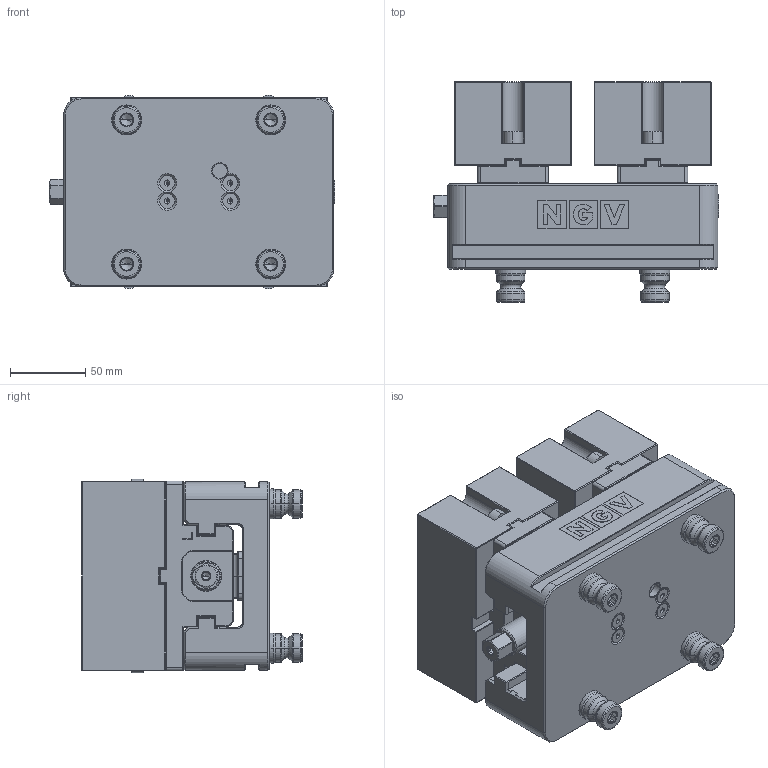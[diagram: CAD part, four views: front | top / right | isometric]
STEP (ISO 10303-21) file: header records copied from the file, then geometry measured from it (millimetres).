
FILE_DESCRIPTION((''),'2;1');
FILE_NAME('SJV126S_00_0_ASM','2025-06-26T',('tibi'),(''),'PRO/ENGINEER BY PARAMETRIC TECHNOLOGY CORPORATION, 2010280','PRO/ENGINEER BY PARAMETRIC TECHNOLOGY CORPORATION, 2010280','');
FILE_SCHEMA(('CONFIG_CONTROL_DESIGN'));
Length unit declared in the file: millimetre
Products named in the file (12): CORP; SEMICUPLA; SURUB; INEL_O_15X1SI8_INST; SURUB_M5X20; PIN_CENTRARE_20; STIFT_FILETAT_M10X24; BJSM126-1-01-0_SANIE; BJSM126-1-02-0_SANIE_STANGA; BJSM126-1-03-0_BAC_MOALE_OTEL; SURUB_CAP_INBUS_M8X25; SJV126S_00_0_ASM
Assembly tree (26 placements, depth 2):
  SJV126S_00_0_ASM
    CORP
    SEMICUPLA  x2
    SURUB
    INEL_O_15X1SI8_INST  x2
    SURUB_M5X20  x4
    PIN_CENTRARE_20  x4
    STIFT_FILETAT_M10X24  x4
    BJSM126-1-01-0_SANIE
    BJSM126-1-02-0_SANIE_STANGA
    BJSM126-1-03-0_BAC_MOALE_OTEL  x2
    SURUB_CAP_INBUS_M8X25  x4
Bounding box: 190 x 147 x 129 mm (x, y, z)
Volume: 2271609 mm3; surface area: 309933.2 mm2
Topology: 26 solids, 54 shells, 1841 faces, 4540 edges, 2789 vertices
Faces by surface type: plane 1002, cylinder 368, cone 337, torus 84, extrusion 38, bspline 12
Entity records: 37189 total; most frequent: CARTESIAN_POINT 7706, DIRECTION 6025, ORIENTED_EDGE 6014, EDGE_CURVE 3041, VECTOR 2133, LINE 2095, AXIS2_PLACEMENT_3D 1946, VERTEX_POINT 1900
